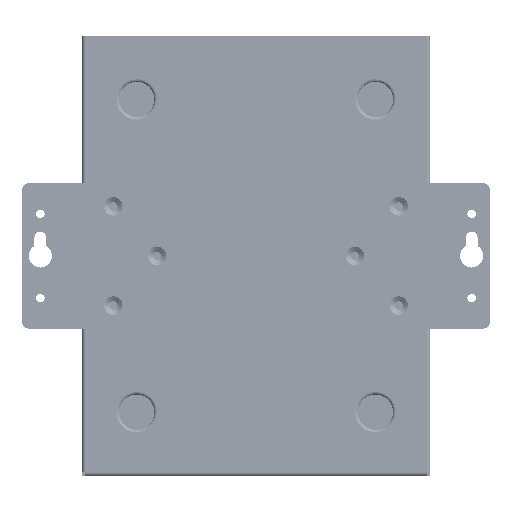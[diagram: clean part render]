
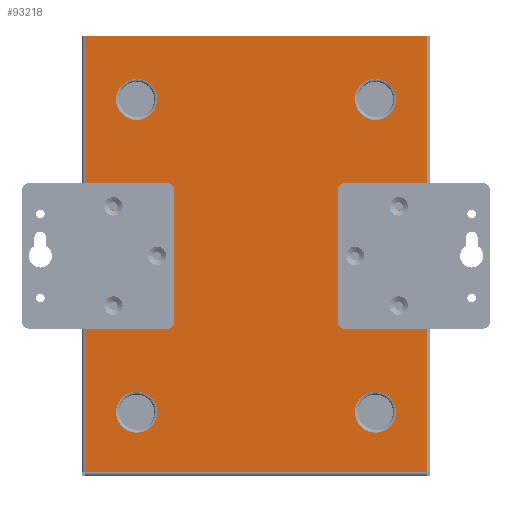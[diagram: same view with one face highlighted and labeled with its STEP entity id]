
A CAD part, front view. The second image highlights one B-rep face of the part: STEP entity #93218.
In plain terms, the highlighted planar face has unit normal (0, -1, 0).
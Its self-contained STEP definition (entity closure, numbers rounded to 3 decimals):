
#4402=FACE_BOUND('',#19977,.T.);
#4403=FACE_BOUND('',#19978,.T.);
#4404=FACE_BOUND('',#19979,.T.);
#4405=FACE_BOUND('',#19980,.T.);
#4406=FACE_BOUND('',#19981,.T.);
#4407=FACE_BOUND('',#19982,.T.);
#4408=FACE_BOUND('',#19983,.T.);
#4409=FACE_BOUND('',#19984,.T.);
#4410=FACE_BOUND('',#19985,.T.);
#4411=FACE_BOUND('',#19986,.T.);
#6479=PLANE('',#101627);
#13784=FACE_OUTER_BOUND('',#19976,.T.);
#19976=EDGE_LOOP('',(#85148,#85149,#85150,#85151,#85152,#85153,#85154,#85155));
#19977=EDGE_LOOP('',(#85156));
#19978=EDGE_LOOP('',(#85157));
#19979=EDGE_LOOP('',(#85158));
#19980=EDGE_LOOP('',(#85159));
#19981=EDGE_LOOP('',(#85160));
#19982=EDGE_LOOP('',(#85161));
#19983=EDGE_LOOP('',(#85162));
#19984=EDGE_LOOP('',(#85163));
#19985=EDGE_LOOP('',(#85164));
#19986=EDGE_LOOP('',(#85165));
#27353=LINE('',#239516,#34574);
#27354=LINE('',#239517,#34575);
#27360=LINE('',#239529,#34581);
#27366=LINE('',#239546,#34587);
#27503=LINE('',#239926,#34724);
#27506=LINE('',#239932,#34727);
#27508=LINE('',#239938,#34729);
#34574=VECTOR('',#124228,10.);
#34575=VECTOR('',#124229,10.);
#34581=VECTOR('',#124239,10.);
#34587=VECTOR('',#124253,10.);
#34724=VECTOR('',#124680,10.);
#34727=VECTOR('',#124689,10.);
#34729=VECTOR('',#124699,10.);
#38250=CIRCLE('',#101469,1.);
#38274=CIRCLE('',#101526,1.265);
#38276=CIRCLE('',#101529,1.265);
#38278=CIRCLE('',#101532,1.265);
#38279=CIRCLE('',#101534,1.265);
#38281=CIRCLE('',#101537,1.265);
#38283=CIRCLE('',#101540,1.265);
#38314=CIRCLE('',#101628,6.116);
#38315=CIRCLE('',#101629,6.116);
#38316=CIRCLE('',#101630,6.116);
#38317=CIRCLE('',#101631,6.116);
#46496=VERTEX_POINT('',#239508);
#46499=VERTEX_POINT('',#239513);
#46500=VERTEX_POINT('',#239515);
#46504=VERTEX_POINT('',#239528);
#46509=VERTEX_POINT('',#239540);
#46510=VERTEX_POINT('',#239541);
#46543=VERTEX_POINT('',#239680);
#46545=VERTEX_POINT('',#239686);
#46547=VERTEX_POINT('',#239692);
#46548=VERTEX_POINT('',#239696);
#46550=VERTEX_POINT('',#239702);
#46552=VERTEX_POINT('',#239708);
#46578=VERTEX_POINT('',#239779);
#46592=VERTEX_POINT('',#239814);
#46610=VERTEX_POINT('',#239946);
#46611=VERTEX_POINT('',#239948);
#46612=VERTEX_POINT('',#239950);
#46613=VERTEX_POINT('',#239952);
#59484=EDGE_CURVE('',#46499,#46500,#27353,.T.);
#59485=EDGE_CURVE('',#46500,#46496,#27354,.T.);
#59491=EDGE_CURVE('',#46504,#46496,#27360,.T.);
#59497=EDGE_CURVE('',#46509,#46510,#38250,.T.);
#59500=EDGE_CURVE('',#46504,#46510,#27366,.T.);
#59571=EDGE_CURVE('',#46543,#46543,#38274,.T.);
#59574=EDGE_CURVE('',#46545,#46545,#38276,.T.);
#59577=EDGE_CURVE('',#46547,#46547,#38278,.T.);
#59578=EDGE_CURVE('',#46548,#46548,#38279,.T.);
#59581=EDGE_CURVE('',#46550,#46550,#38281,.T.);
#59584=EDGE_CURVE('',#46552,#46552,#38283,.T.);
#59697=EDGE_CURVE('',#46578,#46509,#27503,.T.);
#59700=EDGE_CURVE('',#46499,#46592,#27506,.T.);
#59702=EDGE_CURVE('',#46592,#46578,#27508,.T.);
#59707=EDGE_CURVE('',#46610,#46610,#38314,.T.);
#59708=EDGE_CURVE('',#46611,#46611,#38315,.T.);
#59709=EDGE_CURVE('',#46612,#46612,#38316,.T.);
#59710=EDGE_CURVE('',#46613,#46613,#38317,.T.);
#85148=ORIENTED_EDGE('',*,*,#59697,.T.);
#85149=ORIENTED_EDGE('',*,*,#59497,.T.);
#85150=ORIENTED_EDGE('',*,*,#59500,.F.);
#85151=ORIENTED_EDGE('',*,*,#59491,.T.);
#85152=ORIENTED_EDGE('',*,*,#59485,.F.);
#85153=ORIENTED_EDGE('',*,*,#59484,.F.);
#85154=ORIENTED_EDGE('',*,*,#59700,.T.);
#85155=ORIENTED_EDGE('',*,*,#59702,.T.);
#85156=ORIENTED_EDGE('',*,*,#59571,.T.);
#85157=ORIENTED_EDGE('',*,*,#59574,.T.);
#85158=ORIENTED_EDGE('',*,*,#59577,.T.);
#85159=ORIENTED_EDGE('',*,*,#59578,.T.);
#85160=ORIENTED_EDGE('',*,*,#59581,.T.);
#85161=ORIENTED_EDGE('',*,*,#59584,.T.);
#85162=ORIENTED_EDGE('',*,*,#59707,.F.);
#85163=ORIENTED_EDGE('',*,*,#59708,.F.);
#85164=ORIENTED_EDGE('',*,*,#59709,.F.);
#85165=ORIENTED_EDGE('',*,*,#59710,.F.);
#93218=ADVANCED_FACE('',(#13784,#4402,#4403,#4404,#4405,#4406,#4407,#4408,
#4409,#4410,#4411),#6479,.T.);
#101469=AXIS2_PLACEMENT_3D('',#239542,#124248,#124249);
#101526=AXIS2_PLACEMENT_3D('',#239682,#124412,#124413);
#101529=AXIS2_PLACEMENT_3D('',#239688,#124419,#124420);
#101532=AXIS2_PLACEMENT_3D('',#239694,#124426,#124427);
#101534=AXIS2_PLACEMENT_3D('',#239697,#124430,#124431);
#101537=AXIS2_PLACEMENT_3D('',#239703,#124437,#124438);
#101540=AXIS2_PLACEMENT_3D('',#239709,#124444,#124445);
#101627=AXIS2_PLACEMENT_3D('',#239945,#124710,#124711);
#101628=AXIS2_PLACEMENT_3D('',#239947,#124712,#124713);
#101629=AXIS2_PLACEMENT_3D('',#239949,#124714,#124715);
#101630=AXIS2_PLACEMENT_3D('',#239951,#124716,#124717);
#101631=AXIS2_PLACEMENT_3D('',#239953,#124718,#124719);
#124228=DIRECTION('',(1.,0.,0.));
#124229=DIRECTION('',(0.,0.,1.));
#124239=DIRECTION('',(-1.,0.,0.));
#124248=DIRECTION('center_axis',(0.,0.,
-1.));
#124249=DIRECTION('ref_axis',(0.707,-0.707,0.));
#124253=DIRECTION('',(0.,0.,-1.));
#124412=DIRECTION('center_axis',(0.,1.,0.));
#124413=DIRECTION('ref_axis',(0.,0.,-1.));
#124419=DIRECTION('center_axis',(0.,1.,0.));
#124420=DIRECTION('ref_axis',(0.,0.,-1.));
#124426=DIRECTION('center_axis',(0.,1.,0.));
#124427=DIRECTION('ref_axis',(0.,0.,-1.));
#124430=DIRECTION('center_axis',(0.,1.,0.));
#124431=DIRECTION('ref_axis',(0.,0.,-1.));
#124437=DIRECTION('center_axis',(0.,1.,0.));
#124438=DIRECTION('ref_axis',(0.,0.,-1.));
#124444=DIRECTION('center_axis',(0.,1.,0.));
#124445=DIRECTION('ref_axis',(0.,0.,-1.));
#124680=DIRECTION('',(0.,0.,1.));
#124689=DIRECTION('',(0.,0.,-1.));
#124699=DIRECTION('',(1.,0.,0.));
#124710=DIRECTION('center_axis',(0.,-1.,0.));
#124711=DIRECTION('ref_axis',(1.,0.,0.));
#124712=DIRECTION('center_axis',(0.,-1.,0.));
#124713=DIRECTION('ref_axis',(-1.,0.,0.));
#124714=DIRECTION('center_axis',(0.,-1.,0.));
#124715=DIRECTION('ref_axis',(-1.,0.,0.));
#124716=DIRECTION('center_axis',(0.,-1.,0.));
#124717=DIRECTION('ref_axis',(-1.,0.,0.));
#124718=DIRECTION('center_axis',(0.,-1.,0.));
#124719=DIRECTION('ref_axis',(-1.,0.,0.));
#239508=CARTESIAN_POINT('',(-50.705,-14.,3.4));
#239513=CARTESIAN_POINT('',(-50.715,-14.,2.4));
#239515=CARTESIAN_POINT('',(-50.705,-14.,2.4));
#239516=CARTESIAN_POINT('',(-51.725,-14.,2.4));
#239517=CARTESIAN_POINT('',(-50.705,-14.,2.4));
#239528=CARTESIAN_POINT('',(50.705,-14.,3.4));
#239529=CARTESIAN_POINT('',(-50.705,-14.,3.4));
#239540=CARTESIAN_POINT('',(50.715,-14.,2.4));
#239541=CARTESIAN_POINT('',(50.705,-14.,2.4));
#239542=CARTESIAN_POINT('Origin',(50.705,-13.,2.4));
#239546=CARTESIAN_POINT('',(50.705,-14.,2.4));
#239680=CARTESIAN_POINT('',(-42.425,-14.,-75.561));
#239682=CARTESIAN_POINT('Origin',(-42.425,-14.,-76.825));
#239686=CARTESIAN_POINT('',(-42.425,-14.,-45.81));
#239688=CARTESIAN_POINT('Origin',(-42.425,-14.,-47.075));
#239692=CARTESIAN_POINT('',(-29.425,-14.,-60.686));
#239694=CARTESIAN_POINT('Origin',(-29.425,-14.,-61.95));
#239696=CARTESIAN_POINT('',(42.425,-14.,-75.561));
#239697=CARTESIAN_POINT('Origin',(42.425,-14.,-76.825));
#239702=CARTESIAN_POINT('',(42.425,-14.,-45.81));
#239703=CARTESIAN_POINT('Origin',(42.425,-14.,-47.075));
#239708=CARTESIAN_POINT('',(29.425,-14.,-60.686));
#239709=CARTESIAN_POINT('Origin',(29.425,-14.,-61.95));
#239779=CARTESIAN_POINT('',(50.715,-14.,-126.29));
#239814=CARTESIAN_POINT('',(-50.715,-14.,-126.29));
#239926=CARTESIAN_POINT('',(50.715,-14.,-30.025));
#239932=CARTESIAN_POINT('',(-50.715,-14.,-94.37));
#239938=CARTESIAN_POINT('',(25.863,-14.,-126.29));
#239945=CARTESIAN_POINT('Origin',(0.,-14.,-62.45));
#239946=CARTESIAN_POINT('',(41.616,-14.,-108.4));
#239947=CARTESIAN_POINT('Origin',(35.5,-14.,-108.4));
#239948=CARTESIAN_POINT('',(41.616,-14.,-15.4));
#239949=CARTESIAN_POINT('Origin',(35.5,-14.,-15.4));
#239950=CARTESIAN_POINT('',(-29.384,-14.,-108.4));
#239951=CARTESIAN_POINT('Origin',(-35.5,-14.,-108.4));
#239952=CARTESIAN_POINT('',(-29.384,-14.,-15.4));
#239953=CARTESIAN_POINT('Origin',(-35.5,-14.,-15.4));
